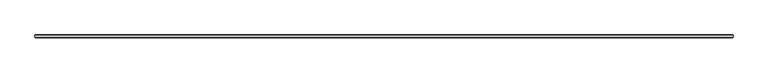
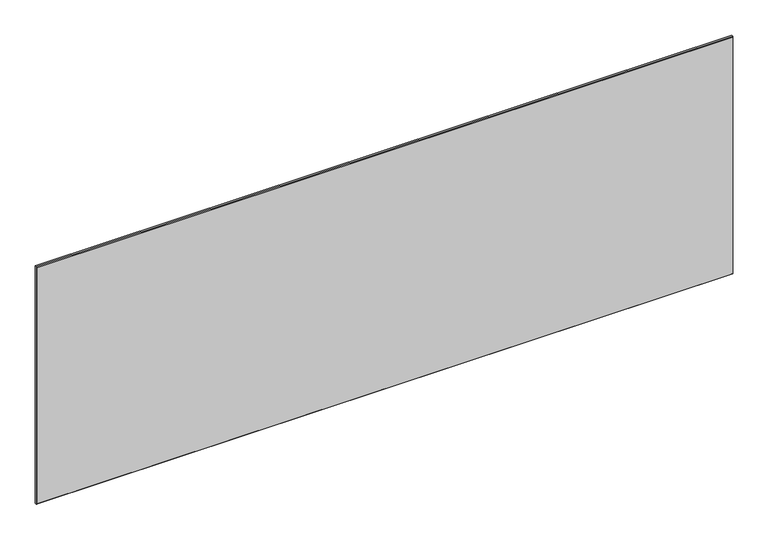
"""IFC4 building model written with IfcOpenShell, lengths in millimetres: plate geometry, 1-AMG-1-Панель одинарный витраж 8, 10 : Смещение 32 Толщина 8mm."""

from ifc_helpers import new_model, si_unit, origin, place, context, project, spatial, faceted_brep, source, transform, mapped, element, save


def plate_5209fc4b(model_context):
    return source(origin(), model_context, "Body", "Brep", [
        faceted_brep([(908.9488281, 29.5038347, 647.9023438), (908.9488281, 34.4961653, 647.9023438), (-908.9488281, 34.4961653, 647.9023438), (-908.9488281, 29.5038347, 647.9023438), (908.9488281, 34.4961653, -7.0), (908.9488281, 29.5038347, -7.0), (-908.9488281, 29.5038347, -7.0), (-908.9488281, 34.4961653, -7.0), (-907.4449934, 36.0, 646.3985091), (907.4449934, 36.0, 646.3985091), (907.4449934, 36.0, -5.5039422), (-907.4449934, 36.0, -5.5039422), (907.4449934, 28.0, 646.3985091), (-907.4449934, 28.0, 646.3985091), (-907.4449934, 28.0, -5.4961653), (907.4449934, 28.0, -5.4961653)], [[[0, 1, 2, 3]], [[4, 5, 6, 7]], [[8, 9, 10, 11]], [[3, 2, 7, 6]], [[12, 13, 14, 15]], [[1, 0, 5, 4]], [[1, 4, 10, 9]], [[5, 0, 12, 15]], [[7, 2, 8, 11]], [[3, 6, 14, 13]], [[0, 3, 13, 12]], [[2, 1, 9, 8]], [[6, 5, 15, 14]], [[4, 7, 11, 10]]]),
    ])


if __name__ == "__main__":
    model = new_model("IFC4")
    model_context = context("Model", 3, world=origin())
    ifc_project = project(units=[si_unit("LENGTHUNIT", "METRE", prefix="MILLI")], contexts=[model_context])
    site = spatial("IfcSite", under=ifc_project)
    building = spatial("IfcBuilding", under=site)
    placement = place(None, origin())
    plate_shape = plate_5209fc4b(model_context)
    element("IfcPlate", 1, ObjectType="1-AMG-1-Панель одинарный витраж 8, 10 : Смещение 32 Толщина 8mm", at=placement, inside=building, context=model_context, shape_type="MappedRepresentation", body=[
        mapped(plate_shape, transform((0.0, 0.0, 0.0), x_axis=(1.0, 0.0, 0.0), y_axis=(0.0, 1.0, 0.0), z_axis=(0.0, 0.0, 1.0))),
    ])
    save(model, "model.ifc")
